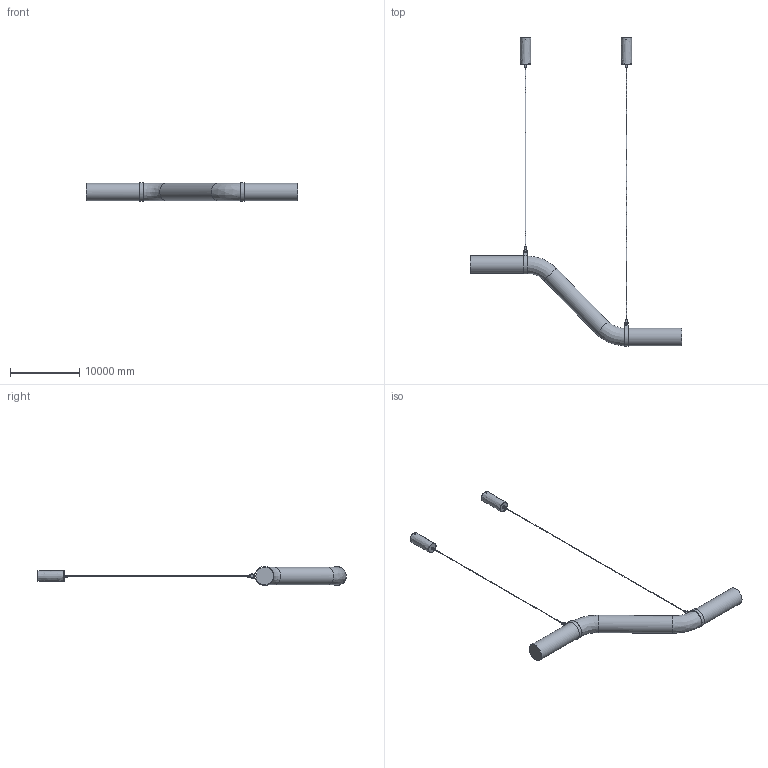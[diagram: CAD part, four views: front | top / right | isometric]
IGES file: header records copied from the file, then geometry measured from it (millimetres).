
Global section: file name: Liberty Alabaster Pendant Light-Model-A-L47.2″,4; native system: 8HAutoCAD 2022 - 简体中文 (Simplified Chinese); preprocessor: Autodesk Translation Framework DWG producer (atf_dwg_producer); organization: unknown; date: 20251221.174216; units: inch
Bounding box: 30480 x 44548.21 x 2741.75 mm (x, y, z)
Volume: 66841897933.6 mm3; surface area: 625244884.8 mm2
Topology: 21 solids, 22 shells, 446 faces, 1124 edges, 828 vertices
Faces by surface type: bspline 446
